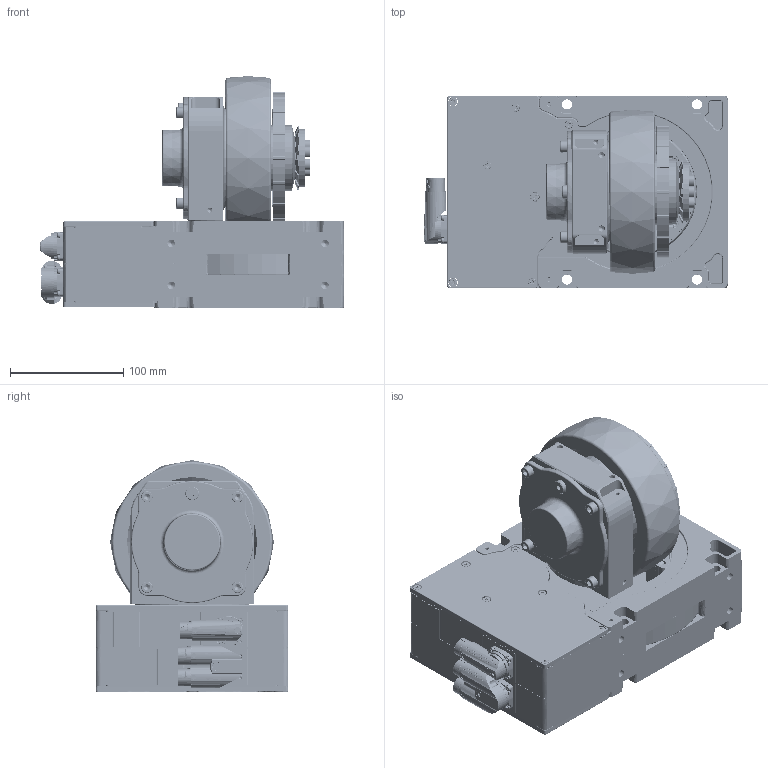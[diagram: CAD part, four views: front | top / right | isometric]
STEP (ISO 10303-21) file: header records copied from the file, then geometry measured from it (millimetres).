
FILE_DESCRIPTION(/* description */ (''),/* implementation_level */ '2;1');
FILE_NAME(/* name */ 'C:\CE-F\CIDEON Conversion Engine\sapworkdir\00505681AE0A1EEDB4DFA5005BCC30B8\in\8315120050_ipt_400.step',/* time_stamp */ '2023-04-04T17:28:20+02:00',/* author */ (''),/* organization */ (''),/* preprocessor_version */ 'ST-DEVELOPER v18.1',/* originating_system */ 'Autodesk Inventor 2021',/* authorisation */ '');
FILE_SCHEMA (('AUTOMOTIVE_DESIGN { 1 0 10303 214 3 1 1 }'));
Products named in the file (1): 8315120050
Bounding box: 269.22 x 170 x 205.05 mm (x, y, z)
Volume: 4078688.3 mm3; surface area: 391802.4 mm2
Topology: 6 solids, 114 shells, 12677 faces, 31764 edges, 19629 vertices
Faces by surface type: plane 4609, bspline 3299, cylinder 2511, torus 1061, cone 877, sphere 320
Full cylindrical faces by diameter (mm): 0.3 x36, 1 x42, 1.2 x6, 1.8 x4, 1.9 x1, 2 x5, 2.05 x1, 2.3 x4, 2.459 x2, 2.5 x11, 2.6 x8, 2.7 x8, 3 x11, 3.05 x2, 3.06 x1, 3.1 x5, 3.2 x2, 3.242 x10, 3.4 x11, 4 x21, 4.5 x12, 4.917 x10, 5 x10, 5.03 x2, 5.2 x2, 5.25 x2, 5.5 x12, 5.8 x1, 6 x18, 6.4 x7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
Entity records: 576287 total; most frequent: CARTESIAN_POINT 275590, ORIENTED_EDGE 62994, DIRECTION 54720, EDGE_CURVE 31497, AXIS2_PLACEMENT_3D 19992, VERTEX_POINT 19631, LINE 14736, VECTOR 14736
